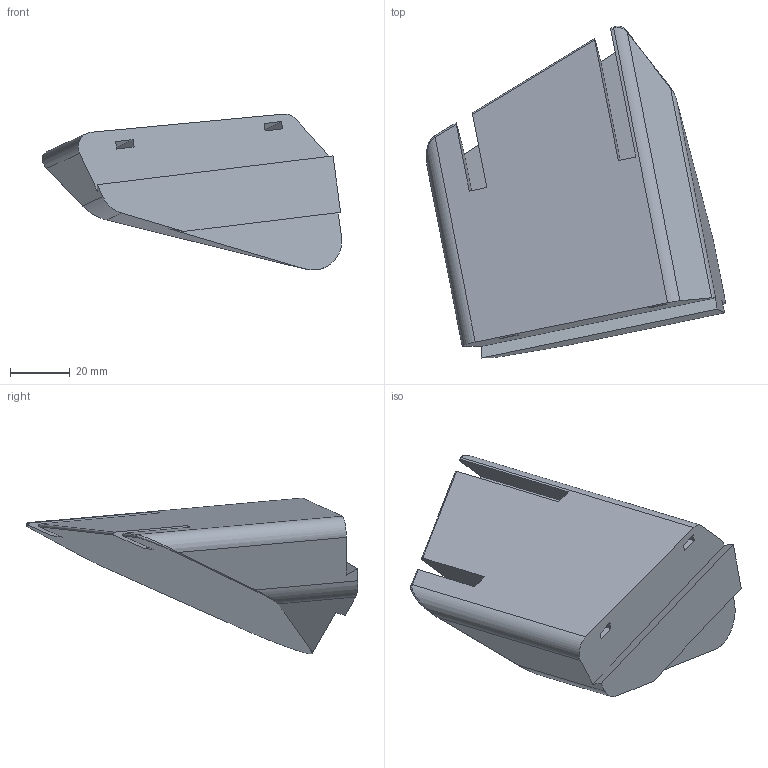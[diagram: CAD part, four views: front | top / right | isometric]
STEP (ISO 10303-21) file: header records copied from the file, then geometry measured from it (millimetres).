
FILE_DESCRIPTION(/* description */ ('STEP AP242','CAx-IF Rec.Pracs.---Representation and Presentation of Product Manufacturing Information (PMI)---4.0---2014-10-13','CAx-IF Rec.Pracs.---3D Tessellated Geometry---0.4---2014-09-14','2;1'),/* implementation_level */ '2;1');
FILE_NAME(/* name */ '65decdecc68ba23d610671e4',/* time_stamp */ '2024-02-28T06:08:44Z',/* author */ (''),/* organization */ (''),/* preprocessor_version */ 'ST-DEVELOPER v19.4',/* originating_system */ ' ',/* authorisation */ ' ');
FILE_SCHEMA (('AP242_MANAGED_MODEL_BASED_3D_ENGINEERING_MIM_LF { 1 0 10303 442 1 1 4 }'));
Length unit declared in the file: metre
Products named in the file (1): Lower Support R
Bounding box: 100.04 x 110.86 x 52.08 mm (x, y, z)
Volume: 156931.8 mm3; surface area: 24220 mm2
Topology: 1 solids, 1 shells, 39 faces, 107 edges, 68 vertices
Faces by surface type: plane 22, cylinder 12, bspline 5
Entity records: 1335 total; most frequent: CARTESIAN_POINT 312, ORIENTED_EDGE 214, DIRECTION 205, EDGE_CURVE 107, LINE 77, VECTOR 77, VERTEX_POINT 68, AXIS2_PLACEMENT_3D 64
